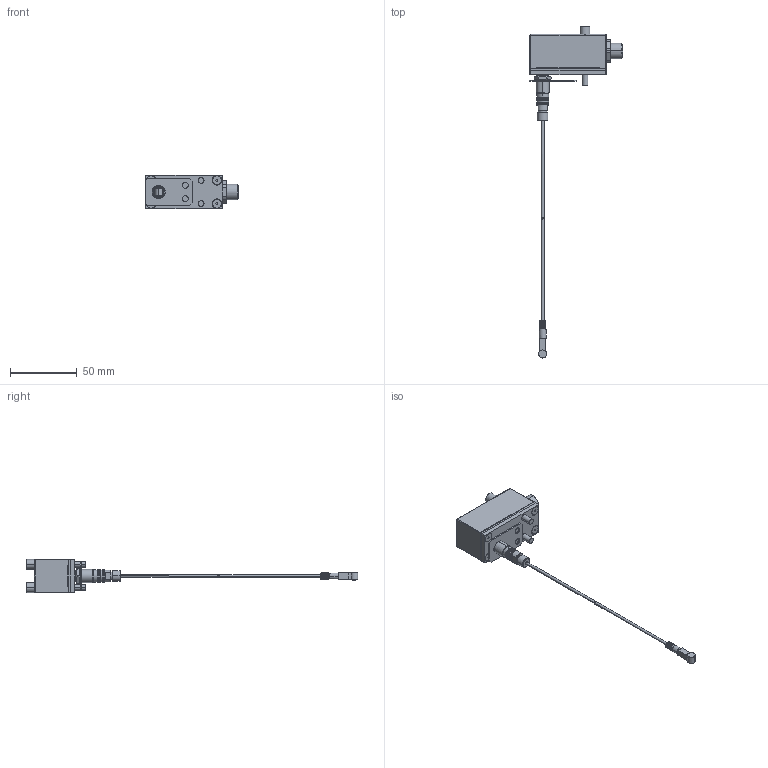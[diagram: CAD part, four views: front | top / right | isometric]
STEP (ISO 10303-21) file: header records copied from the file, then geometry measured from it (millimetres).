
FILE_DESCRIPTION (( 'STEP AP214' ), '1' );
FILE_NAME ('LP-LX1-M Assembly w 9211 sensor head.STEP', '2019-11-05T14:45:18', ( '' ), ( '' ), 'SwSTEP 2.0', 'SolidWorks 2019', '' );
FILE_SCHEMA (( 'AUTOMOTIVE_DESIGN' ));
Length unit declared in the file: inch
Products named in the file (13): LP-LX1-M Cover; Fischer SF 102A014; screw 2; LP-LX1-M Aluminum Cover; LP-LX1-M Fischer Connector; LP-LX1-M Case; 1645 Cable; LP-LX1-M Assembly; LP-LX1-M Assembly w 9211 sensor head; RJG LYNX PIEZO LP-B-60-562; screw; LP-LX1-M Gasket; 9211 w 1645 Cable
Assembly tree (16 placements, depth 3):
  LP-LX1-M Assembly w 9211 sensor head
    LP-LX1-M Assembly
      LP-LX1-M Case
      LP-LX1-M Aluminum Cover
      LP-LX1-M Cover
      LP-LX1-M Fischer Connector
      screw  x2
      screw 2  x4
      LP-LX1-M Gasket
      Fischer SF 102A014
    9211 w 1645 Cable
      RJG LYNX PIEZO LP-B-60-562
      1645 Cable
Bounding box: 69.94 x 248.88 x 25.4 mm (x, y, z)
Volume: 31198.4 mm3; surface area: 27813.7 mm2
Topology: 16 solids, 16 shells, 1296 faces, 3349 edges, 2201 vertices
Faces by surface type: plane 634, bspline 344, cylinder 249, cone 44, sphere 15, torus 10
Entity records: 58406 total; most frequent: CARTESIAN_POINT 26518, ORIENTED_EDGE 6388, DIRECTION 4706, EDGE_CURVE 3194, VERTEX_POINT 2109, LINE 1908, VECTOR 1908, EDGE_LOOP 1421
